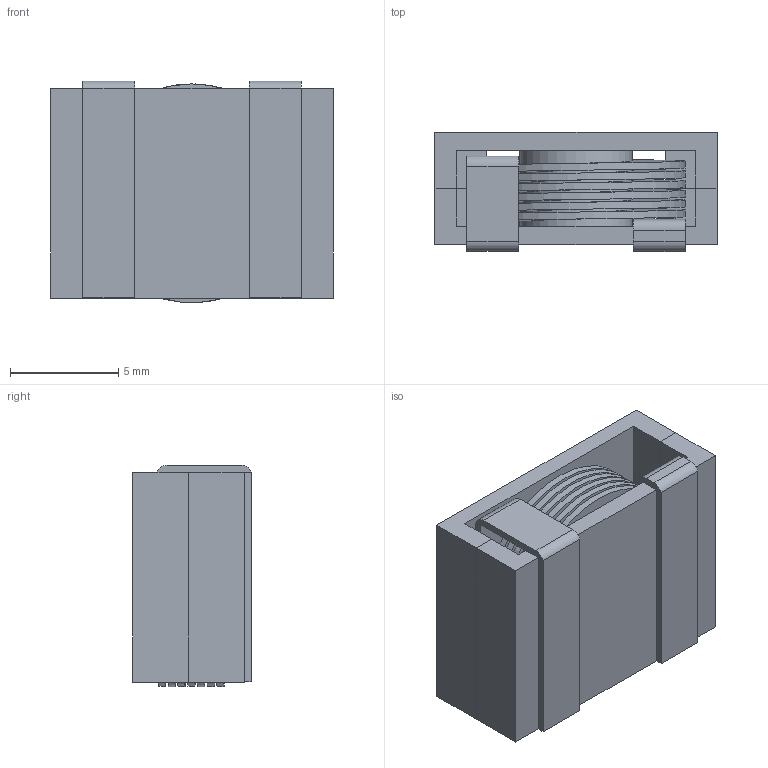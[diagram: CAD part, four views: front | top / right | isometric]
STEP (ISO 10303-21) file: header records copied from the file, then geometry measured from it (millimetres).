
FILE_DESCRIPTION (( 'STEP AP214' ), '1' );
FILE_NAME ('CWS-5325A REV.C.STEP', '2019-08-01T21:39:12', ( '' ), ( '' ), 'SwSTEP 2.0', 'SolidWorks 2015', '' );
FILE_SCHEMA (( 'AUTOMOTIVE_DESIGN' ));
Length unit declared in the file: millimetre
Products named in the file (7): CWS-5325A coil; CWS-5325A REV.C; CWS-5325A-CASE
Assembly tree (4 placements, depth 2):
  CWS-5325A REV.C
    CWS-5325A coil
    CWS-5325A-CASE  x2
  CWS-5325A-CASE
  CWS-5325A-CASE
  CWS-5325A REV.C
    CWS-5325A coil
Bounding box: 13.02 x 5.49 x 10.22 mm (x, y, z)
Volume: 509.1 mm3; surface area: 1858.5 mm2
Topology: 5 solids, 5 shells, 64 faces, 149 edges, 98 vertices
Faces by surface type: plane 54, cylinder 6, bspline 4
Full cylindrical faces by diameter (mm): 5.2 x2
Entity records: 2810 total; most frequent: CARTESIAN_POINT 1420, DIRECTION 222, ORIENTED_EDGE 216, EDGE_CURVE 108, VECTOR 94, LINE 94, VERTEX_POINT 70, AXIS2_PLACEMENT_3D 64
